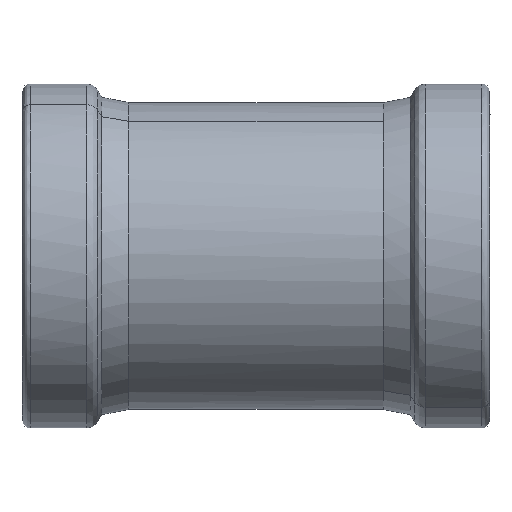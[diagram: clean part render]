
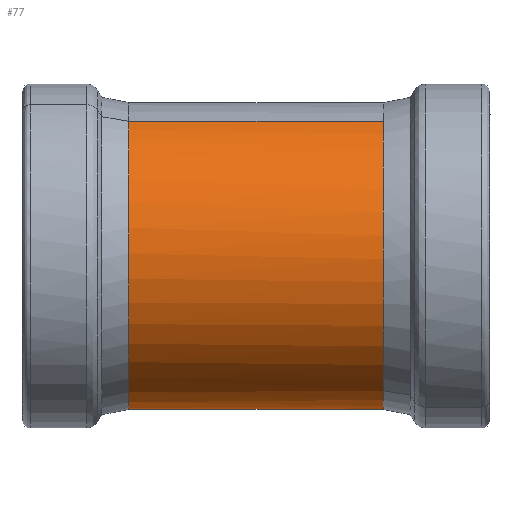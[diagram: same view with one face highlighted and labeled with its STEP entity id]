
A CAD part, front view. The second image highlights one B-rep face of the part: STEP entity #77.
In plain terms, the highlighted free-form (B-spline) face has degree [1, 2] with [2, 9] control points.
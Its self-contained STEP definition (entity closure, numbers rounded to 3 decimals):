
#77=ADVANCED_FACE('',(#169),#170,.T.);
#169=FACE_OUTER_BOUND('',#585,.T.);
#170=(B_SPLINE_SURFACE(1,2,((#587,#588,#589,#590,#591,#592,#593,#594,#595),(#596,#597,#598,#599,#600,#601,#602,#603,#604)),.UNSPECIFIED.,.F.,.T.,.F.)B_SPLINE_SURFACE_WITH_KNOTS((2,2),(3,2,2,2,3),(-0.153,1.506),(0.0,64.403,128.805,193.208,257.611),.UNSPECIFIED.)RATIONAL_B_SPLINE_SURFACE(((1.0,0.707,1.0,0.707,1.0,0.707,1.0,0.707,1.0),(1.0,0.707,1.0,0.707,1.0,0.707,1.0,0.707,1.0)))BOUNDED_SURFACE()REPRESENTATION_ITEM('')GEOMETRIC_REPRESENTATION_ITEM()SURFACE());
#585=EDGE_LOOP('',(#1427,#1428,#1429,#1430,#1431));
#587=CARTESIAN_POINT('',(-34.007,-19.656,35.981));
#588=CARTESIAN_POINT('',(-34.007,16.324,55.637));
#589=CARTESIAN_POINT('',(-34.007,35.981,19.656));
#590=CARTESIAN_POINT('',(-34.007,55.637,-16.324));
#591=CARTESIAN_POINT('',(-34.007,19.656,-35.981));
#592=CARTESIAN_POINT('',(-34.007,-16.324,-55.637));
#593=CARTESIAN_POINT('',(-34.007,-35.981,-19.656));
#594=CARTESIAN_POINT('',(-34.007,-55.637,16.324));
#595=CARTESIAN_POINT('',(-34.007,-19.656,35.981));
#596=CARTESIAN_POINT('',(34.007,-19.656,35.981));
#597=CARTESIAN_POINT('',(34.007,16.324,55.637));
#598=CARTESIAN_POINT('',(34.007,35.981,19.656));
#599=CARTESIAN_POINT('',(34.007,55.637,-16.324));
#600=CARTESIAN_POINT('',(34.007,19.656,-35.981));
#601=CARTESIAN_POINT('',(34.007,-16.324,-55.637));
#602=CARTESIAN_POINT('',(34.007,-35.981,-19.656));
#603=CARTESIAN_POINT('',(34.007,-55.637,16.324));
#604=CARTESIAN_POINT('',(34.007,-19.656,35.981));
#1427=ORIENTED_EDGE('',*,*,#1631,.F.);
#1428=ORIENTED_EDGE('',*,*,#1632,.F.);
#1429=ORIENTED_EDGE('',*,*,#1597,.F.);
#1430=ORIENTED_EDGE('',*,*,#1633,.F.);
#1431=ORIENTED_EDGE('',*,*,#1634,.F.);
#1597=EDGE_CURVE('',#1738,#1740,#1741,.T.);
#1631=EDGE_CURVE('',#1791,#1792,#1793,.T.);
#1632=EDGE_CURVE('',#1740,#1791,#1794,.T.);
#1633=EDGE_CURVE('',#1795,#1738,#1796,.T.);
#1634=EDGE_CURVE('',#1792,#1795,#1797,.T.);
#1738=VERTEX_POINT('',#2088);
#1740=VERTEX_POINT('',#2101);
#1741=(B_SPLINE_CURVE(2,(#2103,#2104,#2105,#2106,#2107,#2108,#2109),.UNSPECIFIED.,.F.,.F.)B_SPLINE_CURVE_WITH_KNOTS((3,2,2,3),(2.571,3.808,5.046,6.283),.UNSPECIFIED.)RATIONAL_B_SPLINE_CURVE((1.0,0.815,1.0,0.815,1.0,0.815,1.0))BOUNDED_CURVE()REPRESENTATION_ITEM('')GEOMETRIC_REPRESENTATION_ITEM()CURVE());
#1791=VERTEX_POINT('',#2385);
#1792=VERTEX_POINT('',#2386);
#1793=B_SPLINE_CURVE_WITH_KNOTS('',1,(#2387,#2388),.UNSPECIFIED.,.F.,.F.,(2,2),(-1.506,0.153),.UNSPECIFIED.);
#1794=(B_SPLINE_CURVE(2,(#2390,#2391,#2392,#2393,#2394,#2395,#2396),.UNSPECIFIED.,.F.,.F.)B_SPLINE_CURVE_WITH_KNOTS((3,2,2,3),(2.571,3.808,5.046,6.283),.UNSPECIFIED.)RATIONAL_B_SPLINE_CURVE((1.0,0.815,1.0,0.815,1.0,0.815,1.0))BOUNDED_CURVE()REPRESENTATION_ITEM('')GEOMETRIC_REPRESENTATION_ITEM()CURVE());
#1795=VERTEX_POINT('',#2403);
#1796=B_SPLINE_CURVE_WITH_KNOTS('',1,(#2404,#2405),.UNSPECIFIED.,.F.,.F.,(2,2),(-0.153,1.506),.UNSPECIFIED.);
#1797=(B_SPLINE_CURVE(2,(#2407,#2408,#2409,#2410,#2411,#2412,#2413),.UNSPECIFIED.,.F.,.F.)B_SPLINE_CURVE_WITH_KNOTS((3,2,2,3),(0.0,1.571,3.142,4.712),.UNSPECIFIED.)RATIONAL_B_SPLINE_CURVE((1.0,0.707,1.0,0.707,1.0,0.707,1.0))BOUNDED_CURVE()REPRESENTATION_ITEM('')GEOMETRIC_REPRESENTATION_ITEM()CURVE());
#2088=CARTESIAN_POINT('',(34.007,-19.656,35.981));
#2101=CARTESIAN_POINT('',(34.007,-19.656,-35.981));
#2103=CARTESIAN_POINT('',(34.007,-19.656,35.981));
#2104=CARTESIAN_POINT('',(34.007,-45.275,21.986));
#2105=CARTESIAN_POINT('',(34.007,-40.432,-6.802));
#2106=CARTESIAN_POINT('',(34.007,-35.589,-35.589));
#2107=CARTESIAN_POINT('',(34.007,-6.802,-40.432));
#2108=CARTESIAN_POINT('',(34.007,21.986,-45.275));
#2109=CARTESIAN_POINT('',(34.007,35.981,-19.656));
#2385=CARTESIAN_POINT('',(34.007,19.656,-35.981));
#2386=CARTESIAN_POINT('',(-34.007,19.656,-35.981));
#2387=CARTESIAN_POINT('',(34.007,19.656,-35.981));
#2388=CARTESIAN_POINT('',(-34.007,19.656,-35.981));
#2390=CARTESIAN_POINT('',(34.007,-19.656,35.981));
#2391=CARTESIAN_POINT('',(34.007,-45.275,21.986));
#2392=CARTESIAN_POINT('',(34.007,-40.432,-6.802));
#2393=CARTESIAN_POINT('',(34.007,-35.589,-35.589));
#2394=CARTESIAN_POINT('',(34.007,-6.802,-40.432));
#2395=CARTESIAN_POINT('',(34.007,21.986,-45.275));
#2396=CARTESIAN_POINT('',(34.007,35.981,-19.656));
#2403=CARTESIAN_POINT('',(-34.007,-19.656,35.981));
#2404=CARTESIAN_POINT('',(-34.007,-19.656,35.981));
#2405=CARTESIAN_POINT('',(34.007,-19.656,35.981));
#2407=CARTESIAN_POINT('',(-34.007,35.981,19.656));
#2408=CARTESIAN_POINT('',(-34.007,55.637,-16.324));
#2409=CARTESIAN_POINT('',(-34.007,19.656,-35.981));
#2410=CARTESIAN_POINT('',(-34.007,-16.324,-55.637));
#2411=CARTESIAN_POINT('',(-34.007,-35.981,-19.656));
#2412=CARTESIAN_POINT('',(-34.007,-55.637,16.324));
#2413=CARTESIAN_POINT('',(-34.007,-19.656,35.981));
